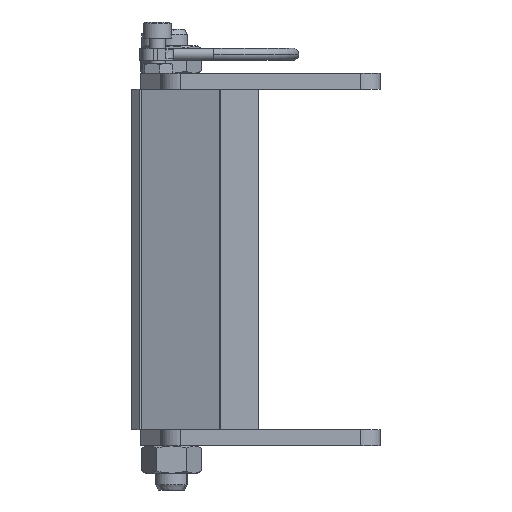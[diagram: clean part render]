
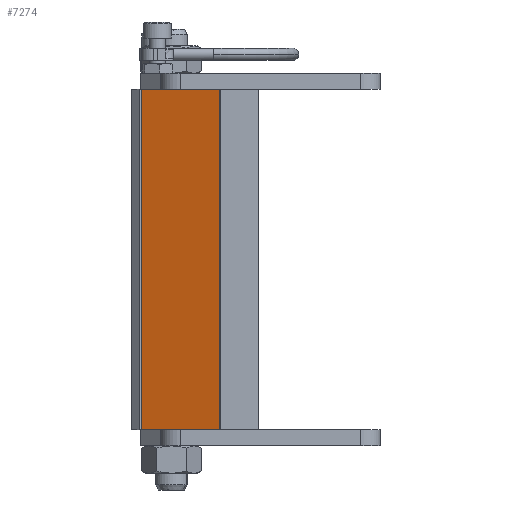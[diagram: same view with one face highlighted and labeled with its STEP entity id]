
A CAD part, left-side view. The second image highlights one B-rep face of the part: STEP entity #7274.
In plain terms, the highlighted planar face has unit normal (-0.391, -0.92, 0).
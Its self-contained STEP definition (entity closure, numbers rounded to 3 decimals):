
#1156 = EDGE_CURVE ( 'NONE', #11524, #12058, #13014, .T. ) ;
#1245 = DIRECTION ( 'NONE',  ( 0.92, -0.391, 0. ) ) ;
#2198 = ORIENTED_EDGE ( 'NONE', *, *, #10354, .F. ) ;
#2405 = CARTESIAN_POINT ( 'NONE',  ( 171.897, 4.676, -89. ) ) ;
#3254 = LINE ( 'NONE', #2405, #19663 ) ;
#4624 = CARTESIAN_POINT ( 'NONE',  ( 217.696, -14.793, -89. ) ) ;
#4797 = DIRECTION ( 'NONE',  ( 0.92, -0.391, 0. ) ) ;
#5234 = FACE_OUTER_BOUND ( 'NONE', #12289, .T. ) ;
#5990 = PLANE ( 'NONE',  #20299 ) ;
#6198 = CARTESIAN_POINT ( 'NONE',  ( 171.897, 4.676, -4. ) ) ;
#7228 = CARTESIAN_POINT ( 'NONE',  ( 217.696, -14.793, -4. ) ) ;
#7274 = ADVANCED_FACE ( 'NONE', ( #5234 ), #5990, .F. ) ;
#8751 = VECTOR ( 'NONE', #17206, 1000. ) ;
#8814 = ORIENTED_EDGE ( 'NONE', *, *, #1156, .F. ) ;
#9624 = CARTESIAN_POINT ( 'NONE',  ( 217.696, -14.793, -89. ) ) ;
#9922 = ORIENTED_EDGE ( 'NONE', *, *, #17275, .F. ) ;
#10045 = VECTOR ( 'NONE', #1245, 1000. ) ;
#10354 = EDGE_CURVE ( 'NONE', #14441, #11524, #3254, .T. ) ;
#10418 = CARTESIAN_POINT ( 'NONE',  ( 171.897, 4.676, -89. ) ) ;
#11524 = VERTEX_POINT ( 'NONE', #13488 ) ;
#11924 = CARTESIAN_POINT ( 'NONE',  ( 217.696, -14.793, -89. ) ) ;
#12058 = VERTEX_POINT ( 'NONE', #7228 ) ;
#12289 = EDGE_LOOP ( 'NONE', ( #9922, #16905, #8814, #2198 ) ) ;
#13014 = LINE ( 'NONE', #6198, #10045 ) ;
#13488 = CARTESIAN_POINT ( 'NONE',  ( 171.897, 4.676, -4. ) ) ;
#14441 = VERTEX_POINT ( 'NONE', #10418 ) ;
#15162 = DIRECTION ( 'NONE',  ( 0., 0., 1. ) ) ;
#15733 = LINE ( 'NONE', #18749, #8751 ) ;
#15758 = DIRECTION ( 'NONE',  ( -0.92, 0.391, 0. ) ) ;
#16206 = LINE ( 'NONE', #4624, #20439 ) ;
#16905 = ORIENTED_EDGE ( 'NONE', *, *, #17170, .T. ) ;
#17170 = EDGE_CURVE ( 'NONE', #19785, #12058, #15733, .T. ) ;
#17206 = DIRECTION ( 'NONE',  ( 0., 0., 1. ) ) ;
#17275 = EDGE_CURVE ( 'NONE', #19785, #14441, #16206, .T. ) ;
#18749 = CARTESIAN_POINT ( 'NONE',  ( 217.696, -14.793, -89. ) ) ;
#19274 = DIRECTION ( 'NONE',  ( 0.391, 0.92, 0. ) ) ;
#19663 = VECTOR ( 'NONE', #15162, 1000. ) ;
#19785 = VERTEX_POINT ( 'NONE', #11924 ) ;
#20299 = AXIS2_PLACEMENT_3D ( 'NONE', #9624, #19274, #4797 ) ;
#20439 = VECTOR ( 'NONE', #15758, 1000. ) ;
